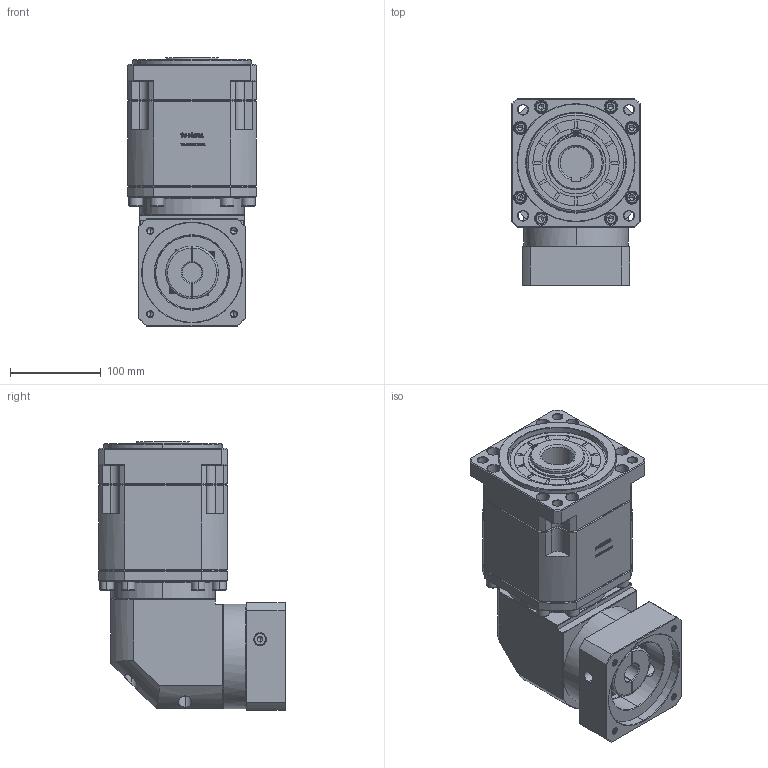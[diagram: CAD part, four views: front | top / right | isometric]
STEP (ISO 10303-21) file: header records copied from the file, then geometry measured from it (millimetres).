
FILE_DESCRIPTION (( 'STEP AP214' ), '1' );
FILE_NAME ('ZBR142A-K35-L3-22-110-130-M8.step', '2023-03-20T04:16:58', ( '' ), ( '' ), 'SwSTEP 2.0', 'SolidWorks 2016', '' );
FILE_SCHEMA (( 'AUTOMOTIVE_DESIGN' ));
Length unit declared in the file: millimetre
Products named in the file (1): ZBR142A-K35-L3-22-110-130-M8
Bounding box: 142 x 205.9 x 295.2 mm (x, y, z)
Volume: 4961916.4 mm3; surface area: 332177.9 mm2
Topology: 6 solids, 6 shells, 3131 faces, 8247 edges, 5283 vertices
Faces by surface type: plane 1645, bspline 586, cylinder 465, cone 391, torus 44
Entity records: 164021 total; most frequent: CARTESIAN_POINT 56709, ORIENTED_EDGE 16390, DIRECTION 12849, EDGE_CURVE 8195, LINE 5529, VECTOR 5529, VERTEX_POINT 5283, AXIS2_PLACEMENT_3D 3660
